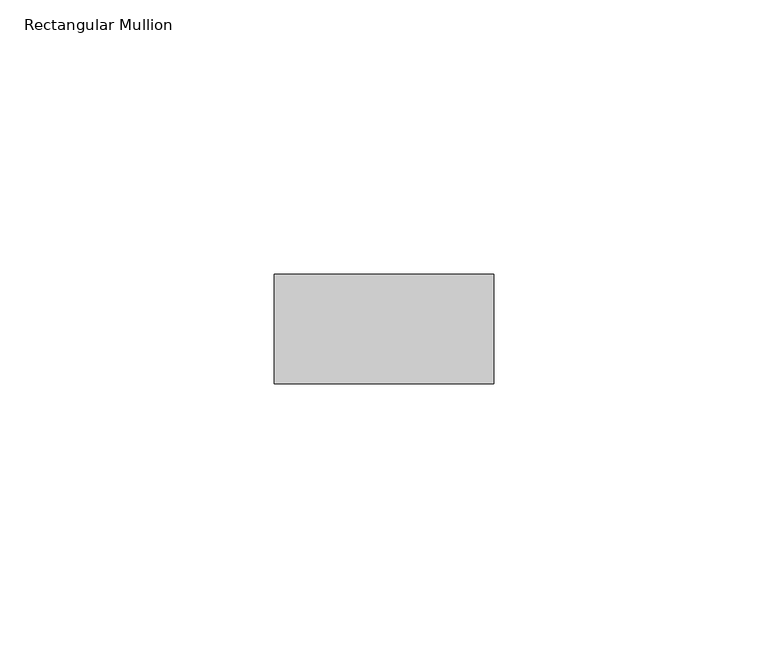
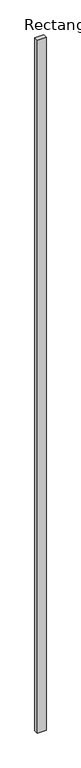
"""IFC4 building model written with IfcOpenShell, lengths in millimetres: member geometry, Rectangular Mullion : RIPA 4x2 cm."""

from ifc_helpers import new_model, si_unit, frame, origin, place, context, project, spatial, polyline, outline, extrude, source, transform, mapped, element, save


def rectangular_mullion_b5eedd0f(model_context):
    return source(origin(), model_context, "Body", "SweptSolid", [
        extrude(outline(polyline([(20.0, 0.0), (20.0, -20.0), (-20.0, -20.0), (-20.0, 0.0), (20.0, 0.0)])), frame((0.0, 0.0, -3399.4972203), z_axis=(0.0, 0.0, 1.0), x_axis=(1.0, 0.0, 0.0)), (0.0, 0.0, 1.0), 3399.4972203),
    ])


if __name__ == "__main__":
    model = new_model("IFC4")
    model_context = context("Model", 3, world=origin())
    ifc_project = project(units=[si_unit("LENGTHUNIT", "METRE", prefix="MILLI")], contexts=[model_context])
    site = spatial("IfcSite", under=ifc_project)
    building = spatial("IfcBuilding", under=site)
    placement = place(None, origin())
    rectangular_mullion_shape = rectangular_mullion_b5eedd0f(model_context)
    element("IfcMember", 1, ObjectType="Rectangular Mullion : RIPA 4x2 cm", at=placement, inside=building, context=model_context, shape_type="MappedRepresentation", body=[
        mapped(rectangular_mullion_shape, transform((0.0, 0.0, 0.0), x_axis=(1.0, 0.0, 0.0), y_axis=(0.0, 1.0, 0.0), z_axis=(0.0, 0.0, 1.0))),
    ])
    save(model, "model.ifc")
